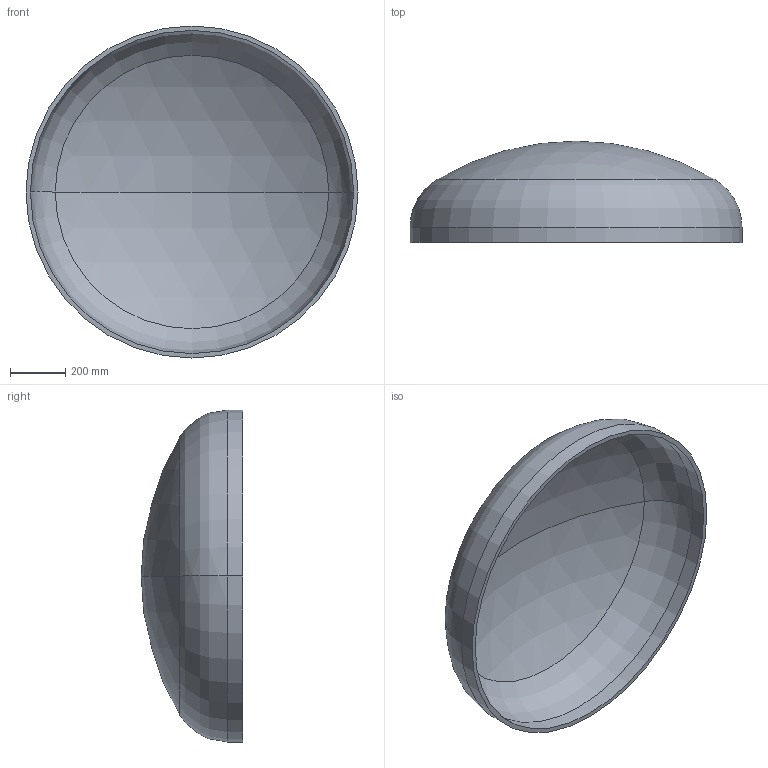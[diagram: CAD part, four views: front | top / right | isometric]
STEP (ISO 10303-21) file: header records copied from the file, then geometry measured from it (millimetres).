
FILE_DESCRIPTION (( 'STEP AP203' ), '1' );
FILE_NAME ('DIN 28013 Korbbogenform_-_Boden DIN 28013 - 1200 x 55 - I - s=16.step', '2016-07-01T09:22:09', ( '' ), ( '' ), 'SwSTEP 2.0', 'SolidWorks 2013', '' );
FILE_SCHEMA (( 'CONFIG_CONTROL_DESIGN' ));
Length unit declared in the file: millimetre
Products named in the file (1): DIN 28013 Korbbogenform_-_Boden DIN 28013 - 1200 x 55 - I - s=16
Bounding box: 1200 x 366.6 x 1200 mm (x, y, z)
Volume: 27902889 mm3; surface area: 3547910.4 mm2
Topology: 1 solids, 1 shells, 13 faces, 24 edges, 14 vertices
Faces by surface type: torus 4, cylinder 4, sphere 4, plane 1
Entity records: 407 total; most frequent: DIRECTION 72, CARTESIAN_POINT 52, ORIENTED_EDGE 48, AXIS2_PLACEMENT_3D 34, EDGE_CURVE 24, CIRCLE 20, VERTEX_POINT 14, EDGE_LOOP 14
